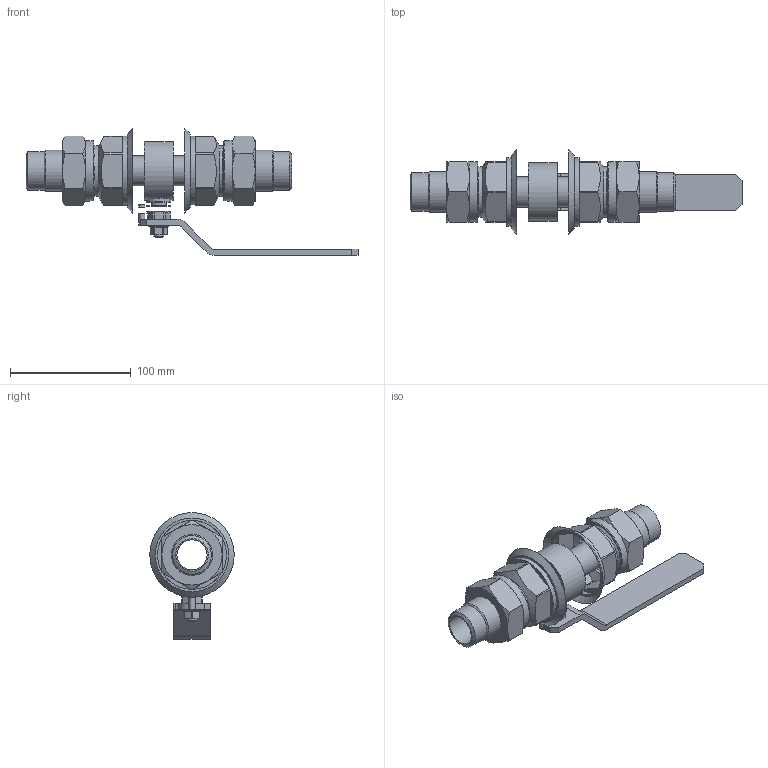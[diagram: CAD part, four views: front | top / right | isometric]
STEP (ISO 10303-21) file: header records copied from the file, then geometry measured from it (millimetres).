
FILE_DESCRIPTION(('STEP AP203'), '1');
FILE_NAME('ZARDP 025.080.30.P.stp', '2013-12-06T05:56:30', ('Øèøêî'), ('Ýíåðïðåä-ßðäîñ'), 'ASCON STEP Converter 1.3', 'Kompas 3D', '');
FILE_SCHEMA(('CONFIG_CONTROL_DESIGN','SUPPORT_RESOURCE_SCHEMA'));
Length unit declared in the file: millimetre
Products named in the file (1): 14
Bounding box: 275 x 70 x 105 mm (x, y, z)
Surface area: 89660 mm2 (no closed solid volume)
Topology: 0 solids, 3 shells, 259 faces, 603 edges, 375 vertices
Faces by surface type: plane 130, cylinder 66, cone 58, torus 3, bspline 2
Full cylindrical faces by diameter (mm): 5 x2, 8 x1, 10.7 x1, 10.917 x1, 12 x1, 12.1 x1, 19.8 x1, 20 x3, 25 x4, 32 x2, 34 x4, 37.2 x2, 42 x2, 42.835 x2, 45 x2, 48.4 x1, 50 x2, 57 x2, 70 x1
Entity records: 9984 total; most frequent: CARTESIAN_POINT 3942, DIRECTION 1295, ORIENTED_EDGE 1204, EDGE_CURVE 603, AXIS2_PLACEMENT_3D 513, VERTEX_POINT 375, EDGE_LOOP 289, LINE 269
